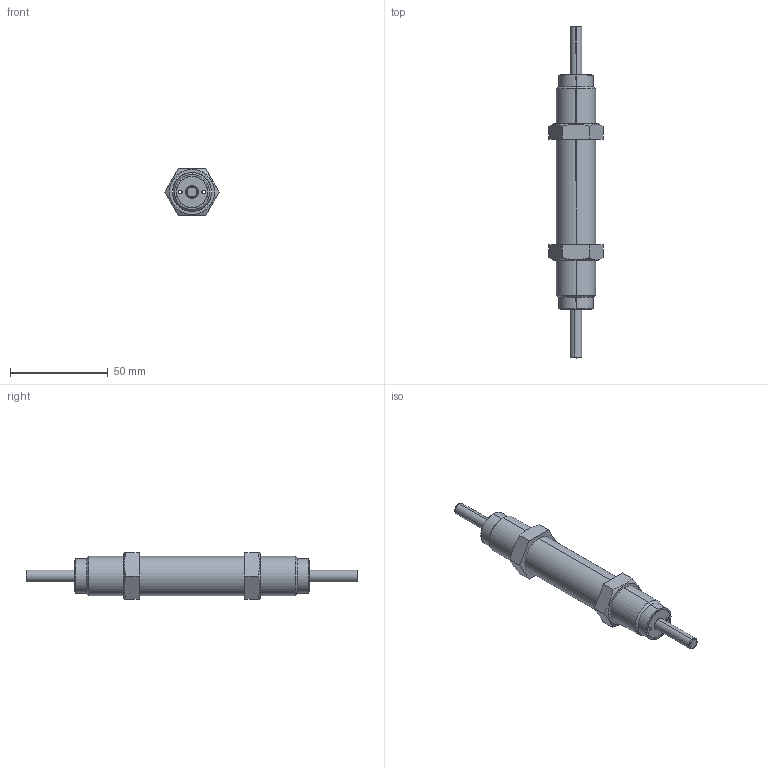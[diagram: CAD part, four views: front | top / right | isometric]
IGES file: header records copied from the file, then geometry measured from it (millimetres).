
Start section: SolidWorks IGES file using analytic representation for surfaces
Bounding box: 27.71 x 170 x 24 mm (x, y, z)
Surface area: 12571.8 mm2 (no closed solid volume)
Topology: 0 solids, 0 shells, 56 faces, 1012 edges, 1012 vertices
Faces by surface type: revolution 30, bspline 26
